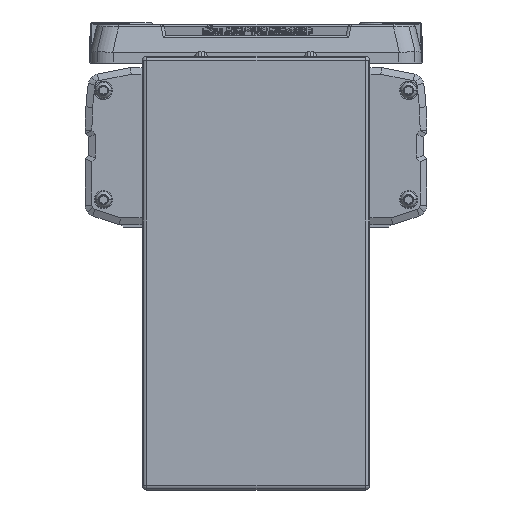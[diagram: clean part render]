
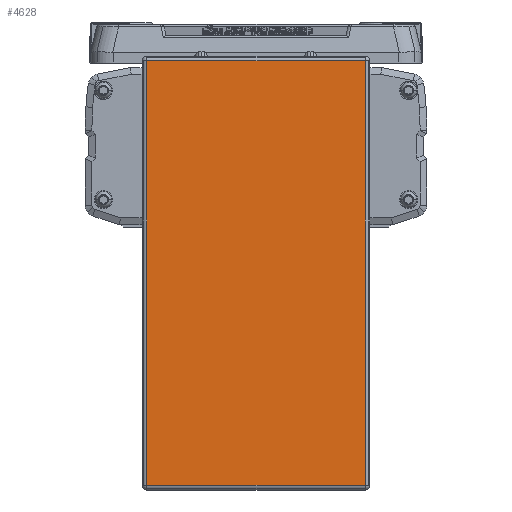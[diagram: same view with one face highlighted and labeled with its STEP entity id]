
A CAD part, left-side view. The second image highlights one B-rep face of the part: STEP entity #4628.
In plain terms, the highlighted planar face has unit normal (-1, 0, 0).
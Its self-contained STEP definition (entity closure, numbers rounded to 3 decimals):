
#4628=ADVANCED_FACE('',(#10452),#10453,.T.);
#10452=FACE_OUTER_BOUND('',#18588,.T.);
#10453=PLANE('',#18589);
#18588=EDGE_LOOP('',(#32445,#32446,#32447,#32448));
#18589=AXIS2_PLACEMENT_3D('',#32449,#32450,#32451);
#32445=ORIENTED_EDGE('',*,*,#47258,.F.);
#32446=ORIENTED_EDGE('',*,*,#48067,.F.);
#32447=ORIENTED_EDGE('',*,*,#48068,.F.);
#32448=ORIENTED_EDGE('',*,*,#43640,.F.);
#32449=CARTESIAN_POINT('',(-45.,0.,-64.2));
#32450=DIRECTION('',(-1.0,0.,0.));
#32451=DIRECTION('',(0.,1.0,0.));
#43640=EDGE_CURVE('',#52134,#52136,#52137,.T.);
#47258=EDGE_CURVE('',#58021,#52134,#58023,.T.);
#48067=EDGE_CURVE('',#56836,#58021,#59138,.T.);
#48068=EDGE_CURVE('',#52136,#56836,#59139,.T.);
#52134=VERTEX_POINT('',#64112);
#52136=VERTEX_POINT('',#64114);
#52137=LINE('',#64115,#64116);
#56836=VERTEX_POINT('',#71823);
#58021=VERTEX_POINT('',#73336);
#58023=LINE('',#73338,#73339);
#59138=LINE('',#74835,#74836);
#59139=LINE('',#74837,#74838);
#64112=CARTESIAN_POINT('',(-45.,-48.,29.));
#64114=CARTESIAN_POINT('',(-45.,-48.,-157.4));
#64115=CARTESIAN_POINT('',(-45.,-48.,-64.2));
#64116=VECTOR('',#79872,10.0);
#71823=CARTESIAN_POINT('',(-45.,48.,-157.4));
#73336=CARTESIAN_POINT('',(-45.,48.,29.));
#73338=CARTESIAN_POINT('',(-45.,0.,29.));
#73339=VECTOR('',#85068,10.0);
#74835=CARTESIAN_POINT('',(-45.,48.,-64.2));
#74836=VECTOR('',#86166,10.0);
#74837=CARTESIAN_POINT('',(-45.,0.,-157.4));
#74838=VECTOR('',#86167,10.0);
#79872=DIRECTION('',(0.,0.,-1.0));
#85068=DIRECTION('',(0.0,-1.0,0.));
#86166=DIRECTION('',(0.,0.,1.0));
#86167=DIRECTION('',(0.0,1.0,0.));
